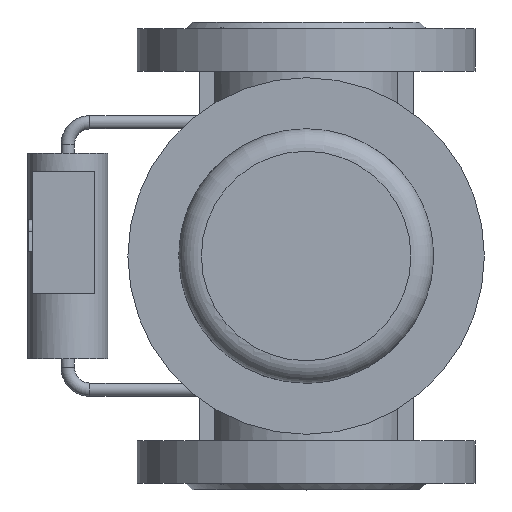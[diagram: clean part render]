
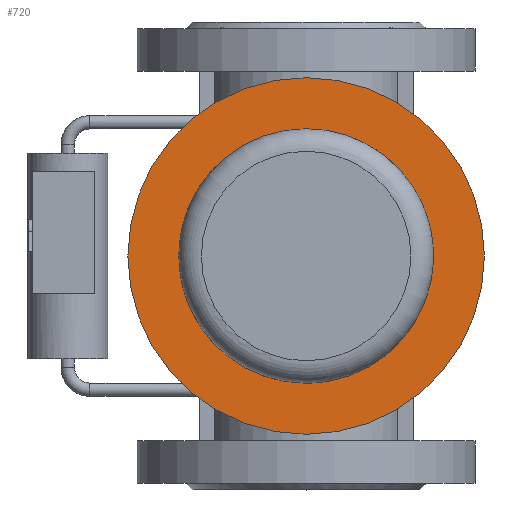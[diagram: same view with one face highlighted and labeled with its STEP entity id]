
A CAD part, left-side view. The second image highlights one B-rep face of the part: STEP entity #720.
In plain terms, the highlighted planar face has unit normal (-1, 0, 0).
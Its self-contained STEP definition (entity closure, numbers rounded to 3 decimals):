
#720=ADVANCED_FACE('',(#1524,#1526),#1528,.F.);
#1524=FACE_BOUND('',#1525,.T.);
#1525=EDGE_LOOP('',(#2027));
#1526=FACE_BOUND('',#1527,.T.);
#1527=EDGE_LOOP('',(#2028));
#1528=PLANE('',#1529);
#1529=AXIS2_PLACEMENT_3D('',#1530,#1531,#1532);
#1530=CARTESIAN_POINT('',(-125.188,3.351,-83.034));
#1531=DIRECTION('',(1.,0.,0.));
#1532=DIRECTION('',(0.,0.,-1.));
#2027=ORIENTED_EDGE('',*,*,#2229,.F.);
#2028=ORIENTED_EDGE('',*,*,#2238,.F.);
#2229=EDGE_CURVE('',#2547,#2547,#2548,.T.);
#2238=EDGE_CURVE('',#2565,#2565,#2566,.T.);
#2547=VERTEX_POINT('',#4406);
#2548=CIRCLE('',#4407,102.857);
#2565=VERTEX_POINT('',#4449);
#2566=CIRCLE('',#4450,73.286);
#4406=CARTESIAN_POINT('',(-125.188,106.208,-83.034));
#4407=AXIS2_PLACEMENT_3D('',#4408,#4409,#4410);
#4408=CARTESIAN_POINT('',(-125.188,3.351,-83.034));
#4409=DIRECTION('',(1.,0.,0.));
#4410=DIRECTION('',(0.,1.,0.));
#4449=CARTESIAN_POINT('',(-125.188,3.351,-156.32));
#4450=AXIS2_PLACEMENT_3D('',#4451,#4452,#4453);
#4451=CARTESIAN_POINT('',(-125.188,3.351,-83.034));
#4452=DIRECTION('',(-1.,0.,0.));
#4453=DIRECTION('',(0.,0.,1.));
